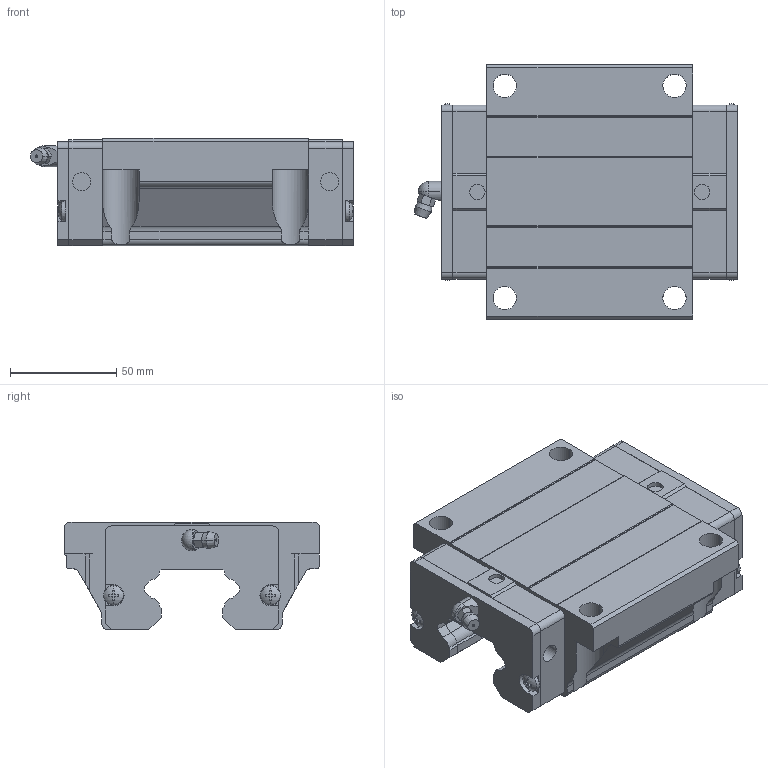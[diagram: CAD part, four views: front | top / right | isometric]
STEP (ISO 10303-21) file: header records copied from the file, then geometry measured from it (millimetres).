
FILE_DESCRIPTION(('starvars output'),'2;1');
FILE_NAME('cv20190626222349000041271.stp','22:23:49 2019/06/26',( 'Thomas Industrial Network Germany GmbH'),( 'Thomas Industrial Network Germany GmbH'),'unknown preprocess','ACIS' ,'unknown authorization');
FILE_SCHEMA(('CONFIG_CONTROL_DESIGN {UNKNOWN IMPLEMENTATION LEVEL}'));
Length unit declared in the file: millimetre
Products named in the file (10): PRODUCT_ID_13; PRODUCT_ID_14; PRODUCT_ID_15; PRODUCT_ID_16; PRODUCT_ID_17; PRODUCT_ID_18; PRODUCT_ID_19; PRODUCT_ID_20; PRODUCT_ID_21; PRODUCT_ID_22
Bounding box: 152.3 x 120 x 50.8 mm (x, y, z)
Volume: 522523.9 mm3; surface area: 89767.9 mm2
Topology: 10 solids, 10 shells, 395 faces, 1046 edges, 677 vertices
Faces by surface type: plane 258, cylinder 79, cone 46, sphere 12
Entity records: 12031 total; most frequent: CARTESIAN_POINT 2123, ORIENTED_EDGE 2084, DIRECTION 1642, EDGE_CURVE 1042, VERTEX_POINT 677, VECTOR 658, LINE 658, AXIS2_PLACEMENT_3D 492
